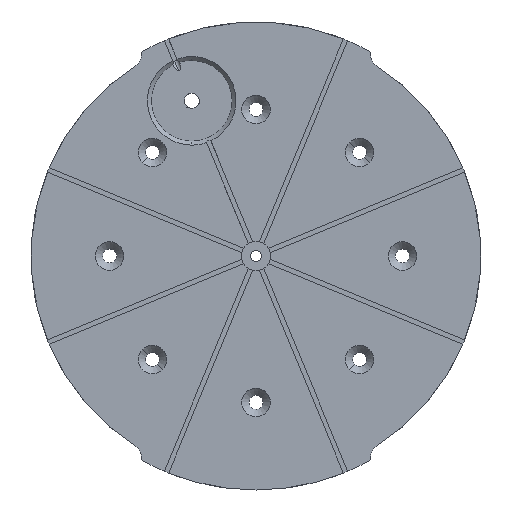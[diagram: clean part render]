
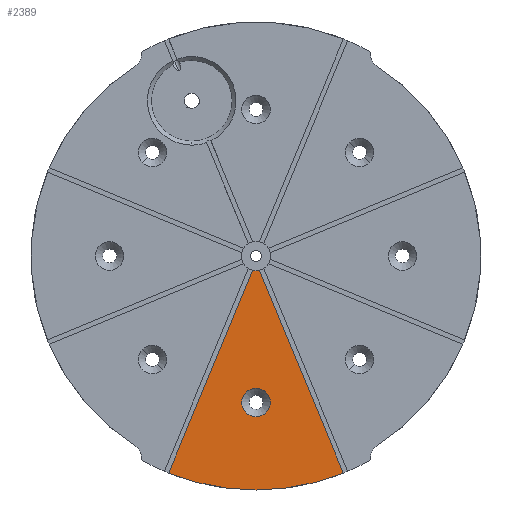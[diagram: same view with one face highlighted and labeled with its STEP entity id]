
A CAD part, front view. The second image highlights one B-rep face of the part: STEP entity #2389.
In plain terms, the highlighted planar face has unit normal (0, -1, 0).
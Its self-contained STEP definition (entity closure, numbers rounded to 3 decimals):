
#248 = DIRECTION ( 'NONE',  ( -0.383, 0., -0.924 ) ) ;
#326 = AXIS2_PLACEMENT_3D ( 'NONE', #1964, #488, #1986 ) ;
#468 = CARTESIAN_POINT ( 'NONE',  ( 28.045, 0., -69.667 ) ) ;
#480 = ORIENTED_EDGE ( 'NONE', *, *, #3929, .T. ) ;
#488 = DIRECTION ( 'NONE',  ( 0., 1., 0. ) ) ;
#491 = DIRECTION ( 'NONE',  ( 0., 0., -1. ) ) ;
#549 = ORIENTED_EDGE ( 'NONE', *, *, #614, .T. ) ;
#614 = EDGE_CURVE ( 'NONE', #4337, #3679, #2373, .T. ) ;
#766 = EDGE_CURVE ( 'NONE', #2954, #2746, #1385, .T. ) ;
#862 = CARTESIAN_POINT ( 'NONE',  ( 1.082, 0., -4.573 ) ) ;
#863 = AXIS2_PLACEMENT_3D ( 'NONE', #2919, #2942, #1790 ) ;
#874 = CARTESIAN_POINT ( 'NONE',  ( -1.082, 0., -4.573 ) ) ;
#923 = FACE_OUTER_BOUND ( 'NONE', #2248, .T. ) ;
#995 = EDGE_CURVE ( 'NONE', #2954, #3706, #1394, .T. ) ;
#996 = ORIENTED_EDGE ( 'NONE', *, *, #1306, .T. ) ;
#1009 = CARTESIAN_POINT ( 'NONE',  ( -31.84, 0., -78.828 ) ) ;
#1019 = CARTESIAN_POINT ( 'NONE',  ( 4.572, 0., -47. ) ) ;
#1052 = EDGE_CURVE ( 'NONE', #3746, #2881, #2517, .T. ) ;
#1053 = ORIENTED_EDGE ( 'NONE', *, *, #2060, .F. ) ;
#1255 = CARTESIAN_POINT ( 'NONE',  ( 0., 0., 0. ) ) ;
#1306 = EDGE_CURVE ( 'NONE', #3679, #4337, #4245, .T. ) ;
#1309 = DIRECTION ( 'NONE',  ( 0., 0., -1. ) ) ;
#1355 = ORIENTED_EDGE ( 'NONE', *, *, #766, .T. ) ;
#1385 = LINE ( 'NONE', #1009, #1622 ) ;
#1394 = CIRCLE ( 'NONE', #1925, 4.699 ) ;
#1486 = DIRECTION ( 'NONE',  ( 0., 0., -1. ) ) ;
#1532 = CARTESIAN_POINT ( 'NONE',  ( 4.699, 0., 0. ) ) ;
#1622 = VECTOR ( 'NONE', #248, 1000. ) ;
#1658 = DIRECTION ( 'NONE',  ( 1., 0., 0. ) ) ;
#1688 = DIRECTION ( 'NONE',  ( -0.383, 0., 0.924 ) ) ;
#1790 = DIRECTION ( 'NONE',  ( 0., 0., -1. ) ) ;
#1857 = AXIS2_PLACEMENT_3D ( 'NONE', #1532, #4097, #491 ) ;
#1870 = VECTOR ( 'NONE', #1688, 1000. ) ;
#1925 = AXIS2_PLACEMENT_3D ( 'NONE', #3674, #3322, #1486 ) ;
#1964 = CARTESIAN_POINT ( 'NONE',  ( 0., 0., -47. ) ) ;
#1986 = DIRECTION ( 'NONE',  ( 1., 0., 0. ) ) ;
#2045 = LINE ( 'NONE', #4242, #1870 ) ;
#2060 = EDGE_CURVE ( 'NONE', #3706, #2709, #2387, .T. ) ;
#2120 = EDGE_LOOP ( 'NONE', ( #996, #549 ) ) ;
#2248 = EDGE_LOOP ( 'NONE', ( #3557, #1355, #2339, #2794, #480, #1053 ) ) ;
#2290 = EDGE_CURVE ( 'NONE', #2746, #3746, #4413, .T. ) ;
#2314 = PLANE ( 'NONE',  #1857 ) ;
#2339 = ORIENTED_EDGE ( 'NONE', *, *, #2290, .T. ) ;
#2373 = CIRCLE ( 'NONE', #326, 4.572 ) ;
#2387 = CIRCLE ( 'NONE', #4334, 4.699 ) ;
#2388 = CARTESIAN_POINT ( 'NONE',  ( 0., 0., 0. ) ) ;
#2389 = ADVANCED_FACE ( 'NONE', ( #2691, #923 ), #2314, .T. ) ;
#2517 = CIRCLE ( 'NONE', #863, 75.1 ) ;
#2691 = FACE_BOUND ( 'NONE', #2120, .T. ) ;
#2709 = VERTEX_POINT ( 'NONE', #862 ) ;
#2746 = VERTEX_POINT ( 'NONE', #3341 ) ;
#2777 = CARTESIAN_POINT ( 'NONE',  ( 0., 0., -47. ) ) ;
#2794 = ORIENTED_EDGE ( 'NONE', *, *, #1052, .T. ) ;
#2881 = VERTEX_POINT ( 'NONE', #468 ) ;
#2919 = CARTESIAN_POINT ( 'NONE',  ( 0., 0., 0. ) ) ;
#2942 = DIRECTION ( 'NONE',  ( 0., -1., 0. ) ) ;
#2954 = VERTEX_POINT ( 'NONE', #874 ) ;
#3322 = DIRECTION ( 'NONE',  ( 0., -1., 0. ) ) ;
#3341 = CARTESIAN_POINT ( 'NONE',  ( -28.045, 0., -69.667 ) ) ;
#3445 = AXIS2_PLACEMENT_3D ( 'NONE', #1255, #4469, #4500 ) ;
#3557 = ORIENTED_EDGE ( 'NONE', *, *, #995, .F. ) ;
#3674 = CARTESIAN_POINT ( 'NONE',  ( 0., 0., 0. ) ) ;
#3679 = VERTEX_POINT ( 'NONE', #1019 ) ;
#3706 = VERTEX_POINT ( 'NONE', #3844 ) ;
#3746 = VERTEX_POINT ( 'NONE', #4067 ) ;
#3805 = AXIS2_PLACEMENT_3D ( 'NONE', #2777, #4166, #1658 ) ;
#3844 = CARTESIAN_POINT ( 'NONE',  ( 0., 0., -4.699 ) ) ;
#3929 = EDGE_CURVE ( 'NONE', #2881, #2709, #2045, .T. ) ;
#4067 = CARTESIAN_POINT ( 'NONE',  ( 0., 0., -75.1 ) ) ;
#4097 = DIRECTION ( 'NONE',  ( 0., -1., 0. ) ) ;
#4166 = DIRECTION ( 'NONE',  ( 0., 1., 0. ) ) ;
#4222 = CARTESIAN_POINT ( 'NONE',  ( -4.572, 0., -47. ) ) ;
#4242 = CARTESIAN_POINT ( 'NONE',  ( -0.693, 0., -0.287 ) ) ;
#4245 = CIRCLE ( 'NONE', #3805, 4.572 ) ;
#4334 = AXIS2_PLACEMENT_3D ( 'NONE', #2388, #4525, #1309 ) ;
#4337 = VERTEX_POINT ( 'NONE', #4222 ) ;
#4413 = CIRCLE ( 'NONE', #3445, 75.1 ) ;
#4469 = DIRECTION ( 'NONE',  ( 0., -1., 0. ) ) ;
#4500 = DIRECTION ( 'NONE',  ( 0., 0., -1. ) ) ;
#4525 = DIRECTION ( 'NONE',  ( 0., -1., 0. ) ) ;
